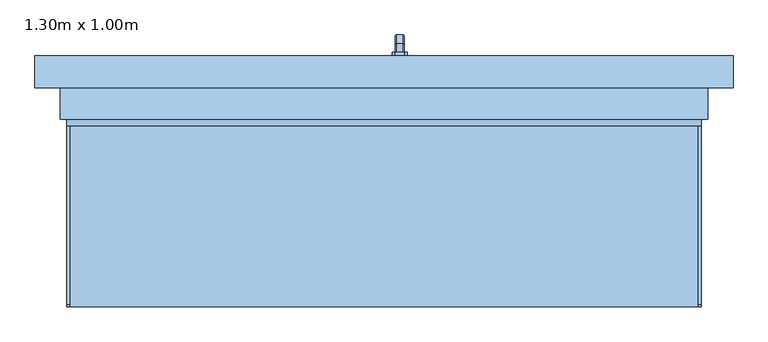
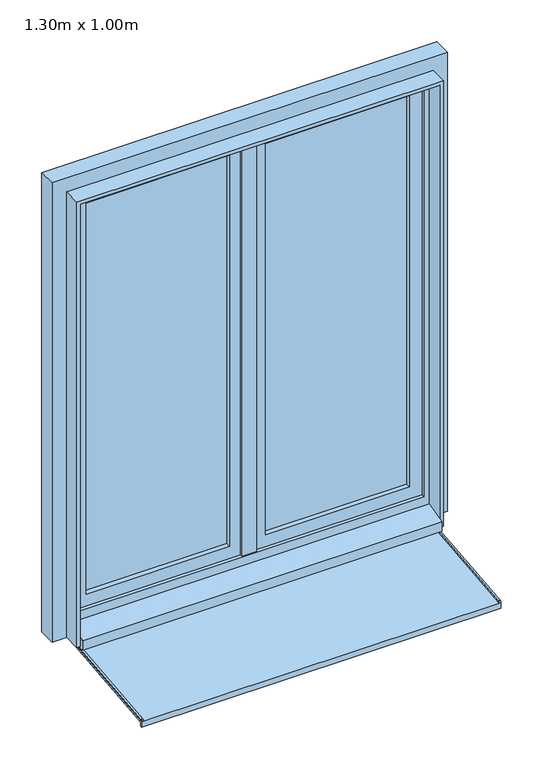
"""IFC4 building model written with IfcOpenShell, lengths in millimetres: window geometry, 2 Vantaux - Droits : 1.30m x 1.00m."""

import ifcopenshell
import ifcopenshell.guid

model = None  # the IFC model being written
_history = None  # IfcOwnerHistory: only IFC2X3 demands one
_inside = {}  # id of a spatial element -> (the spatial element, [elements in it])
_under = {}  # id of a project, library or spatial element -> (it, [spatial elements below it])
_declared = {}  # id of a project -> (the project, [libraries it declares])
_typed = {}  # id of a type object -> (the type object, [elements of that type])
_made_of = {}  # id of a material, layer set ... -> (it, [elements and type objects made of it])


def new_model(schema):
    """Start an empty IFC model of exactly this schema.

    Asked for "IFC4X3", IfcOpenShell would pick the latest addendum, in which some entities
    have other attributes; the version numbers below select the first issue.
    IFC2X3 requires an IfcOwnerHistory on every rooted entity: one is made here for all.
    """
    global model, _history
    if schema == "IFC4X3":
        model = ifcopenshell.file(schema_version=(4, 3, 0, 0))
    else:
        model = ifcopenshell.file(schema=schema)
    _inside.clear()
    _under.clear()
    _declared.clear()
    _typed.clear()
    _made_of.clear()
    _history = None
    if model.schema == "IFC2X3":
        org = make("IfcOrganization", Name="unknown")
        user = make(
            "IfcPersonAndOrganization",
            ThePerson=make("IfcPerson", FamilyName="unknown"),
            TheOrganization=org,
        )
        app = make(
            "IfcApplication",
            ApplicationDeveloper=org,
            Version="unknown",
            ApplicationFullName="unknown",
            ApplicationIdentifier="unknown",
        )
        _history = make(
            "IfcOwnerHistory",
            OwningUser=user,
            OwningApplication=app,
            ChangeAction="ADDED",
            CreationDate=0,
        )
    return model


def make(cls, **values):
    """One entity of the class cls with the attributes given. An attribute that is None is left unset."""
    return model.create_entity(
        cls, **{name: value for name, value in values.items() if value is not None}
    )


def rooted(cls, **values):
    """An entity with a GlobalId (a new one), such as an element, a storey or a relation."""
    return make(cls, GlobalId=ifcopenshell.guid.new(), OwnerHistory=_history, **values)


def si_unit(unit_type, name, prefix=None):
    """IfcSIUnit, for example si_unit("LENGTHUNIT", "METRE", prefix="MILLI")."""
    return make("IfcSIUnit", UnitType=unit_type, Prefix=prefix, Name=name)


def assignment(units):
    """IfcUnitAssignment: the units of a project."""
    return None if units is None else make("IfcUnitAssignment", Units=units)


def point(xyz):
    """IfcCartesianPoint."""
    return None if xyz is None else make("IfcCartesianPoint", Coordinates=xyz)


def direction(xyz):
    """IfcDirection."""
    return None if xyz is None else make("IfcDirection", DirectionRatios=xyz)


def frame(location, z_axis=None, x_axis=None):
    """IfcAxis2Placement3D, a coordinate frame: its origin and axes. An axis left out is left unset."""
    return make(
        "IfcAxis2Placement3D",
        Location=point(location),
        Axis=direction(z_axis),
        RefDirection=direction(x_axis),
    )


def frame_2d(location, x_axis=None):
    """IfcAxis2Placement2D, a coordinate frame in the plane: its origin and x axis."""
    return make(
        "IfcAxis2Placement2D", Location=point(location), RefDirection=direction(x_axis)
    )


def origin():
    """The frame at (0, 0, 0) with its axes left unset."""
    return frame((0.0, 0.0, 0.0))


def place(relative_to, where):
    """IfcLocalPlacement: puts the frame where relative to a parent placement (None: the world)."""
    return make(
        "IfcLocalPlacement", PlacementRelTo=relative_to, RelativePlacement=where
    )


def context(
    kind, dimensions, precision=None, world=None, true_north=None, identifier=None
):
    """IfcGeometricRepresentationContext, for example the 3D "Model" context."""
    return make(
        "IfcGeometricRepresentationContext",
        ContextIdentifier=identifier,
        ContextType=kind,
        CoordinateSpaceDimension=dimensions,
        Precision=precision,
        WorldCoordinateSystem=world,
        TrueNorth=true_north,
    )


def project(units=None, contexts=None):
    """IfcProject with its units and contexts."""
    return rooted(
        "IfcProject",
        Name="project",
        RepresentationContexts=contexts,
        UnitsInContext=assignment(units),
    )


def spatial(cls, under=None, at=None, **own):
    """A site, building, storey or space (cls), placed at a placement, below another one or the project."""
    s = rooted(cls, ObjectPlacement=at, **own)
    if under is not None:
        _under.setdefault(under.id(), (under, []))[1].append(s)
    return s


def polyline(points):
    """IfcPolyline through the points."""
    return make("IfcPolyline", Points=[point(p) for p in points])


def circle_curve(where, radius):
    """IfcCircle in the frame where."""
    return make("IfcCircle", Position=where, Radius=radius)


def trimmed(basis, trim1, trim2, sense, master):
    """IfcTrimmedCurve: the piece of a basis curve between two trims."""
    return make(
        "IfcTrimmedCurve",
        BasisCurve=basis,
        Trim1=trim1,
        Trim2=trim2,
        SenseAgreement=sense,
        MasterRepresentation=master,
    )


def segment(curve, same_sense, transition):
    """IfcCompositeCurveSegment."""
    return make(
        "IfcCompositeCurveSegment",
        Transition=transition,
        SameSense=same_sense,
        ParentCurve=curve,
    )


def composite_curve(segments, self_intersect=None):
    """IfcCompositeCurve: segments joined end to end."""
    return make("IfcCompositeCurve", Segments=segments, SelfIntersect=self_intersect)


def outline(outer, holes=None, kind="AREA"):
    """IfcArbitraryClosedProfileDef: a profile drawn as a closed curve; with holes, ...WithVoids."""
    if holes is None:
        return make("IfcArbitraryClosedProfileDef", ProfileType=kind, OuterCurve=outer)
    return make(
        "IfcArbitraryProfileDefWithVoids",
        ProfileType=kind,
        OuterCurve=outer,
        InnerCurves=holes,
    )


def extrude(swept, where, along, depth):
    """IfcExtrudedAreaSolid: the profile swept, set in the frame where, extruded along a direction by depth."""
    return make(
        "IfcExtrudedAreaSolid",
        SweptArea=swept,
        Position=where,
        ExtrudedDirection=direction(along),
        Depth=depth,
    )


def faces_of(points, faces, orient=None, outer=None):
    """IfcFace entities. A face is a list of loops; a loop is a list of indices into points, from 0.

    orient and outer hold one flag for each loop. By default every Orientation is true, the
    first loop of a face is its IfcFaceOuterBound and the others are IfcFaceBound.
    """
    made = []
    for i, loops in enumerate(faces):
        bounds = []
        for j, loop in enumerate(loops):
            is_outer = j == 0 if outer is None else outer[i][j]
            bounds.append(
                make(
                    "IfcFaceOuterBound" if is_outer else "IfcFaceBound",
                    Bound=make("IfcPolyLoop", Polygon=[points[k] for k in loop]),
                    Orientation=True if orient is None else orient[i][j],
                )
            )
        made.append(make("IfcFace", Bounds=bounds))
    return made


def faceted_brep(points, faces, orient=None, outer=None, voids=None):
    """IfcFacetedBrep: a solid bounded by flat faces; with voids (closed shells), ...WithVoids."""
    shared = [point(p) for p in points]
    hull = make("IfcClosedShell", CfsFaces=faces_of(shared, faces, orient, outer))
    if voids is None:
        return make("IfcFacetedBrep", Outer=hull)
    return make(
        "IfcFacetedBrepWithVoids",
        Outer=hull,
        Voids=[
            make(cls, CfsFaces=faces_of(shared, fs, o, b)) for cls, fs, o, b in voids
        ],
    )


def shape(context_of_items, identifier, shape_type, items):
    """IfcShapeRepresentation: the items that make up one representation, for example the "Body"."""
    return make(
        "IfcShapeRepresentation",
        ContextOfItems=context_of_items,
        RepresentationIdentifier=identifier,
        RepresentationType=shape_type,
        Items=items,
    )


def source(mapping_origin, context_of_items, identifier, shape_type, items):
    """IfcRepresentationMap: a shape defined once, which mapped items show again and again."""
    return make(
        "IfcRepresentationMap",
        MappingOrigin=mapping_origin,
        MappedRepresentation=shape(context_of_items, identifier, shape_type, items),
    )


def transform(
    local_origin,
    x_axis=None,
    y_axis=None,
    z_axis=None,
    scale=None,
    scale2=None,
    scale3=None,
    uniform=True,
):
    """IfcCartesianTransformationOperator3D, or its non-uniform kind. x_axis, y_axis, z_axis: its Axis1, 2, 3."""
    if uniform:
        return make(
            "IfcCartesianTransformationOperator3D",
            Axis1=direction(x_axis),
            Axis2=direction(y_axis),
            LocalOrigin=point(local_origin),
            Scale=scale,
            Axis3=direction(z_axis),
        )
    return make(
        "IfcCartesianTransformationOperator3DnonUniform",
        Axis1=direction(x_axis),
        Axis2=direction(y_axis),
        LocalOrigin=point(local_origin),
        Scale=scale,
        Axis3=direction(z_axis),
        Scale2=scale2,
        Scale3=scale3,
    )


def mapped(mapping_source, mapping_target):
    """IfcMappedItem: shows the shape of a source again, moved by a transform."""
    return make(
        "IfcMappedItem", MappingSource=mapping_source, MappingTarget=mapping_target
    )


def made_of(thing, what):
    """Note that an element or type object is made of a material, layer set ...; save() writes the relation."""
    if what is not None:
        _made_of.setdefault(what.id(), (what, []))[1].append(thing)
    return thing


def element(
    cls,
    number,
    at=None,
    inside=None,
    cuts=None,
    type_object=None,
    material=None,
    context=None,
    identifier="Body",
    shape_type=None,
    held_by="IfcProductDefinitionShape",
    body=None,
    shapes=None,
    **own,
):
    """One element of the class cls, such as IfcWall. Its Tag is "e" and its number.

    at: its placement. inside: the storey or other place that contains it. cuts: it is an
    opening in that element (IfcRelVoidsElement). A single representation is given by context,
    identifier, shape_type and body (its items); several are given by shapes. held_by: the class
    of the entity that holds the representations. save() writes the other relations.
    """
    e = rooted(cls, Tag="e%d" % number, ObjectPlacement=at, **own)
    if body is not None:
        shapes = [shape(context, identifier, shape_type, body)]
    if shapes is not None:
        e.Representation = make(held_by, Representations=shapes)
    if inside is not None:
        _inside.setdefault(inside.id(), (inside, []))[1].append(e)
    if cuts is not None:
        rooted(
            "IfcRelVoidsElement", RelatingBuildingElement=cuts, RelatedOpeningElement=e
        )
    if type_object is not None:
        _typed.setdefault(type_object.id(), (type_object, []))[1].append(e)
    return made_of(e, material)


def aggregate(whole, parts):
    """IfcRelAggregates: a whole, such as a stair, and the parts it consists of."""
    return rooted("IfcRelAggregates", RelatingObject=whole, RelatedObjects=parts)


def save(model, path):
    """Write the relations noted so far, then the file.

    IfcRelAggregates (storeys below a building ...), IfcRelContainedInSpatialStructure (elements
    in a storey), IfcRelDefinesByType, IfcRelAssociatesMaterial and IfcRelDeclares: one each for
    every whole, place, type object, material and project.
    """
    for whole, parts in _under.values():
        aggregate(whole, parts)
    for where, things in _inside.values():
        rooted(
            "IfcRelContainedInSpatialStructure",
            RelatedElements=things,
            RelatingStructure=where,
        )
    for kind, things in _typed.values():
        rooted("IfcRelDefinesByType", RelatedObjects=things, RelatingType=kind)
    for what, things in _made_of.values():
        rooted("IfcRelAssociatesMaterial", RelatedObjects=things, RelatingMaterial=what)
    for by, libraries in _declared.values():
        rooted("IfcRelDeclares", RelatingContext=by, RelatedDefinitions=libraries)
    model.write(path)


def window_1_30m_x_1_00m_32213f53(model_context):
    return source(origin(), model_context, "Body", "SolidModel", [
        faceted_brep([(30.6460097, 196.0, 1422.0339292), (19.3539903, 196.0, 1422.0339292), (17.9660708, 196.0, 1420.6460097), (17.9660708, 196.0, 1409.3323012), (19.3323012, 196.0, 1407.9660708), (30.6676988, 196.0, 1407.9660708), (32.0339292, 196.0, 1409.3323012), (32.0339292, 196.0, 1420.6460097), (32.0339292, 208.3386538, 1420.6460097), (30.6460097, 208.9135489, 1422.0339292), (32.0339292, 203.6523623, 1409.3323012), (32.0339292, 210.3323012, 1402.6523623), (32.0339292, 210.3323012, 1320.0), (32.0339292, 221.6460097, 1320.0), (32.0339292, 221.6460097, 1407.3386538), (30.6676988, 203.0864511, 1407.9660708), (19.3323012, 203.0864511, 1407.9660708), (17.9660708, 203.6523623, 1409.3323012), (17.9660708, 208.3386538, 1420.6460097), (17.9660708, 221.6460097, 1407.3386538), (17.9660708, 221.6460097, 1320.0), (17.9660708, 210.3323012, 1320.0), (17.9660708, 210.3323012, 1402.6523623), (19.3539903, 208.9135489, 1422.0339292), (30.6460097, 223.0339292, 1407.9135489), (30.6676988, 208.9660708, 1402.0864511), (19.3323012, 208.9660708, 1402.0864511), (19.3539903, 223.0339292, 1407.9135489), (30.6460097, 223.0339292, 1320.0), (30.6676988, 208.9660708, 1320.0), (19.3323012, 208.9660708, 1320.0), (19.3539903, 223.0339292, 1320.0)], [[[0, 1, 2, 3, 4, 5, 6, 7]], [[7, 8, 9, 0]], [[6, 10, 11, 12, 13, 14, 8, 7]], [[5, 15, 10, 6]], [[4, 16, 15, 5]], [[3, 17, 16, 4]], [[2, 18, 19, 20, 21, 22, 17, 3]], [[1, 23, 18, 2]], [[0, 9, 23, 1]], [[8, 14, 24, 9]], [[15, 25, 11, 10]], [[16, 26, 25, 15]], [[17, 22, 26, 16]], [[23, 27, 19, 18]], [[9, 24, 27, 23]], [[28, 13, 12, 29, 30, 21, 20, 31]], [[14, 13, 28, 24]], [[25, 29, 12, 11]], [[26, 30, 29, 25]], [[22, 21, 30, 26]], [[27, 31, 20, 19]], [[24, 28, 31, 27]]]),
        extrude(outline(polyline([(1440.0, 32.0), (1440.0, 18.0), (1435.0, 13.0), (1365.0, 13.0), (1360.0, 18.0), (1360.0, 32.0), (1365.0, 37.0), (1435.0, 37.0), (1440.0, 32.0)])), frame((0.0, 190.0, 0.0), z_axis=(0.0, 1.0, 0.0), x_axis=(0.0, 0.0, 1.0)), (0.0, 0.0, 1.0), 6.0),
        extrude(outline(polyline([(-205.0, 757.1473777), (105.0, 789.7296906), (105.0, 800.0), (110.0, 800.0), (110.0, 785.0), (-200.0, 752.4176871), (-200.0, 742.1171824), (-205.0, 741.5916612), (-205.0, 757.1473777)])), frame((-500.0, 0.0, 0.0), z_axis=(1.0, 0.0, 0.0), x_axis=(0.0, 1.0, 0.0)), (0.0, 0.0, 1.0), 1000.0),
        extrude(outline(composite_curve([segment(polyline([(-205.0, 757.1473777), (-205.0, 758.5733029)]), True, "CONTINUOUS"), segment(trimmed(circle_curve(frame_2d((-201.0, 758.5733029)), 4.0), [point((-205.0, 758.5733029))], [point((-201.4181139, 762.5513905))], False, "CARTESIAN"), True, "CONTINUOUS"), segment(polyline([(-201.4181139, 762.5513905), (105.0, 794.757232), (105.0, 789.7296906), (-205.0, 757.1473777)]), True, "CONTINUOUS")], self_intersect=False)), frame((-500.0, 0.0, 0.0), z_axis=(1.0, 0.0, 0.0), x_axis=(0.0, 1.0, 0.0)), (0.0, 0.0, 1.0), 5.0),
        extrude(outline(composite_curve([segment(polyline([(-205.0, 757.1473777), (-205.0, 758.5733029)]), True, "CONTINUOUS"), segment(trimmed(circle_curve(frame_2d((-201.0, 758.5733029)), 4.0), [point((-205.0, 758.5733029))], [point((-201.4181139, 762.5513905))], False, "CARTESIAN"), True, "CONTINUOUS"), segment(polyline([(-201.4181139, 762.5513905), (105.0, 794.757232), (105.0, 789.7296906), (-205.0, 757.1473777)]), True, "CONTINUOUS")], self_intersect=False)), frame((495.0, 0.0, 0.0), z_axis=(1.0, 0.0, 0.0), x_axis=(0.0, 1.0, 0.0)), (0.0, 0.0, 1.0), 5.0),
        extrude(outline(polyline([(850.0, -500.0), (850.0, 0.0), (2100.0, 0.0), (2100.0, -500.0), (850.0, -500.0)]), holes=[polyline([(900.0, -50.0), (900.0, -450.0), (2050.0, -450.0), (2050.0, -50.0), (900.0, -50.0)])]), frame((0.0, 150.0, 0.0), z_axis=(0.0, 1.0, 0.0), x_axis=(0.0, 0.0, 1.0)), (0.0, 0.0, 1.0), 40.0),
        extrude(outline(polyline([(50.0, 164.0), (50.0, 176.0), (450.0, 176.0), (450.0, 164.0), (50.0, 164.0)])), frame((0.0, 0.0, 900.0), z_axis=(0.0, 0.0, 1.0), x_axis=(1.0, 0.0, 0.0)), (0.0, 0.0, 1.0), 1150.0),
        extrude(outline(polyline([(-450.0, 164.0), (-450.0, 176.0), (-50.0, 176.0), (-50.0, 164.0), (-450.0, 164.0)])), frame((0.0, 0.0, 900.0), z_axis=(0.0, 0.0, 1.0), x_axis=(1.0, 0.0, 0.0)), (0.0, 0.0, 1.0), 1150.0),
        extrude(outline(polyline([(850.0, 0.0), (850.0, 500.0), (2100.0, 500.0), (2100.0, 0.0), (850.0, 0.0)]), holes=[polyline([(900.0, 450.0), (900.0, 50.0), (2050.0, 50.0), (2050.0, 450.0), (900.0, 450.0)])]), frame((0.0, 150.0, 0.0), z_axis=(0.0, 1.0, 0.0), x_axis=(0.0, 0.0, 1.0)), (0.0, 0.0, 1.0), 40.0),
        faceted_brep([(-550.0, 190.0, 800.0), (550.0, 190.0, 800.0), (550.0, 140.0, 800.0), (500.0, 140.0, 800.0), (500.0, 90.0, 800.0), (-500.0, 90.0, 800.0), (-500.0, 140.0, 800.0), (-550.0, 140.0, 800.0), (-550.0, 140.0, 2150.0), (-550.0, 190.0, 2150.0), (-500.0, 140.0, 839.3761425), (500.0, 140.0, 839.3761425), (550.0, 140.0, 2150.0), (-485.0, 140.0, 2085.0), (485.0, 140.0, 2085.0), (485.0, 140.0, 865.0), (-485.0, 140.0, 865.0), (-500.0, 90.0, 795.0), (-500.0, 80.0, 795.0), (-500.0, 80.0, 823.2991909), (500.0, 90.0, 795.0), (500.0, 80.0, 823.2991909), (500.0, 80.0, 795.0), (550.0, 190.0, 2150.0), (500.0, 190.0, 2100.0), (-500.0, 190.0, 2100.0), (-500.0, 190.0, 850.0), (500.0, 190.0, 850.0), (-485.0, 150.0, 865.0), (-485.0, 150.0, 2085.0), (485.0, 150.0, 865.0), (485.0, 150.0, 2085.0), (500.0, 150.0, 2100.0), (500.0, 150.0, 850.0), (-500.0, 150.0, 850.0), (-500.0, 150.0, 2100.0)], [[[0, 1, 2, 3, 4, 5, 6, 7]], [[7, 8, 9, 0]], [[7, 6, 10, 11, 3, 2, 12, 8], [13, 14, 15, 16]], [[10, 6, 5, 17, 18, 19]], [[5, 4, 20, 17]], [[4, 3, 11, 21, 22, 20]], [[2, 1, 23, 12]], [[0, 9, 23, 1], [24, 25, 26, 27]], [[13, 16, 28, 29]], [[28, 16, 15, 30]], [[31, 30, 15, 14]], [[19, 21, 11, 10]], [[32, 33, 34, 35], [29, 28, 30, 31]], [[34, 26, 25, 35]], [[26, 34, 33, 27]], [[24, 27, 33, 32]], [[18, 22, 21, 19]], [[17, 20, 22, 18]], [[13, 29, 31, 14]], [[35, 25, 24, 32]], [[12, 23, 9, 8]]]),
        extrude(outline(polyline([(800.0, -500.0), (2100.0, -500.0), (2100.0, 500.0), (800.0, 500.0), (800.0, 510.0), (2110.0, 510.0), (2110.0, -510.0), (800.0, -510.0), (800.0, -500.0)])), frame((0.0, 90.0, 0.0), z_axis=(0.0, 1.0, 0.0), x_axis=(0.0, 0.0, 1.0)), (0.0, 0.0, 1.0), 50.0),
        extrude(outline(polyline([(20.0, 142.0), (-20.0, 142.0), (-20.0, 150.0), (20.0, 150.0), (20.0, 142.0)])), frame((0.0, 0.0, 865.0), z_axis=(0.0, 0.0, 1.0), x_axis=(1.0, 0.0, 0.0)), (0.0, 0.0, 1.0), 1220.0),
    ])


if __name__ == "__main__":
    model = new_model("IFC4")
    model_context = context("Model", 3, world=origin())
    ifc_project = project(units=[si_unit("LENGTHUNIT", "METRE", prefix="MILLI")], contexts=[model_context])
    site = spatial("IfcSite", under=ifc_project)
    building = spatial("IfcBuilding", under=site)
    placement = place(None, origin())
    window_1_30m_x_1_00m_shape = window_1_30m_x_1_00m_32213f53(model_context)
    element("IfcWindow", 1, ObjectType="2 Vantaux - Droits : 1.30m x 1.00m", at=placement, inside=building, context=model_context, shape_type="MappedRepresentation", body=[
        mapped(window_1_30m_x_1_00m_shape, transform((0.0, 0.0, 0.0), x_axis=(1.0, 0.0, 0.0), y_axis=(0.0, 1.0, 0.0), z_axis=(0.0, 0.0, 1.0))),
    ])
    save(model, "model.ifc")
